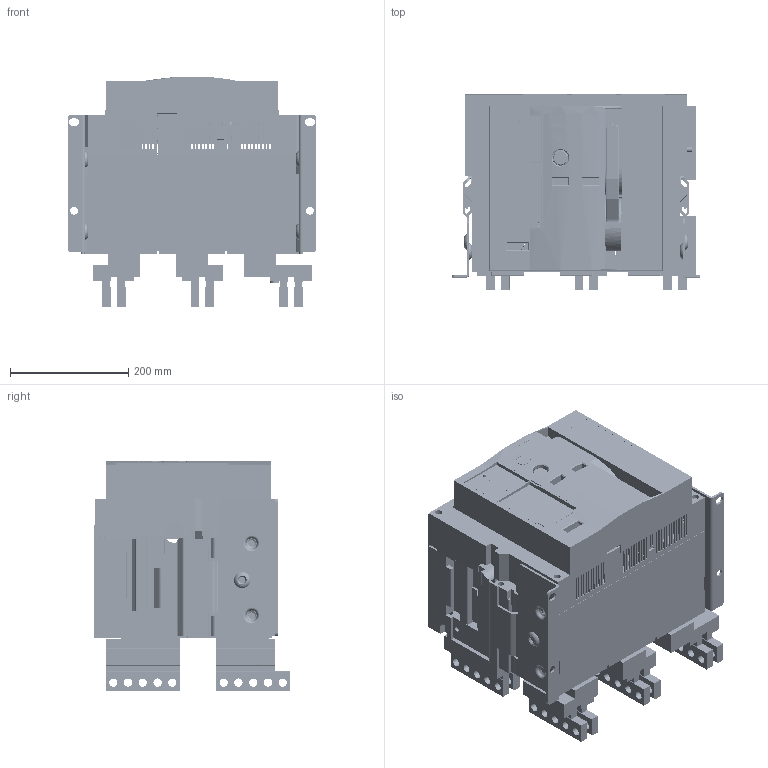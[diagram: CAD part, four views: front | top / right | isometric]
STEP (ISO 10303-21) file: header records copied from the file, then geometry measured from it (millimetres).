
FILE_DESCRIPTION(('STEP AP214'), '1');
FILE_NAME('YON AD-4000-S4-F vertical connection', '2023-04-12T07:33:27', (''), (''), 'ASCON STEP Converter 1.3', 'ASCON Math Kernel', '');
FILE_SCHEMA(('AUTOMOTIVE_DESIGN { 1 0 10303 214 3 1 1}'));
Length unit declared in the file: millimetre
Products named in the file (1): OptiMat A S4 3P BH (4000) 璋韶浯隆 粢韭琿
Bounding box: 421 x 332.3 x 390.81 mm (x, y, z)
Volume: 8108286.8 mm3; surface area: 2606932.8 mm2
Topology: 74 solids, 74 shells, 6152 faces, 16283 edges, 10617 vertices
Faces by surface type: plane 4026, cylinder 1444, cone 317, bspline 252, torus 104, sphere 9
Full cylindrical faces by diameter (mm): 2.5 x12, 3.2 x20, 3.3 x1, 3.4 x20, 4 x2, 4.2 x1, 4.5 x2, 5 x24, 5.2 x20, 5.3 x1, 5.6 x1, 6 x1, 6.4 x2, 6.5 x4, 6.8 x42, 7 x6, 7.5 x8, 8 x65, 8.5 x83, 8.6 x3, 8.8 x2, 9 x24, 9.5 x6, 10 x36, 10.4 x1, 10.5 x6, 12 x4, 13 x2, 14 x84, 15 x1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
Entity records: 302009 total; most frequent: CARTESIAN_POINT 102617, ORIENTED_EDGE 30796, DIRECTION 29226, EDGE_CURVE 15398, LINE 10772, VECTOR 10772, VERTEX_POINT 10545, AXIS2_PLACEMENT_3D 9227
